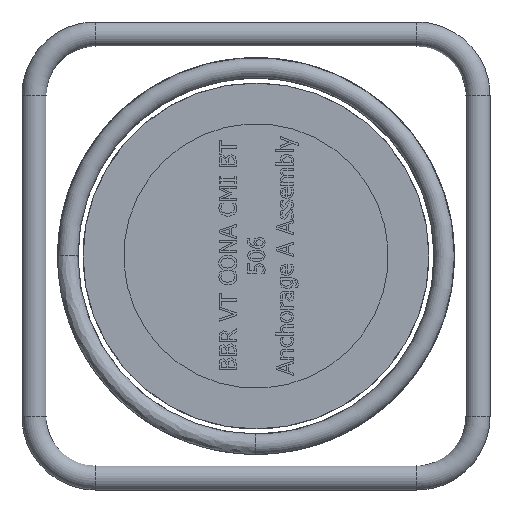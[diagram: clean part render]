
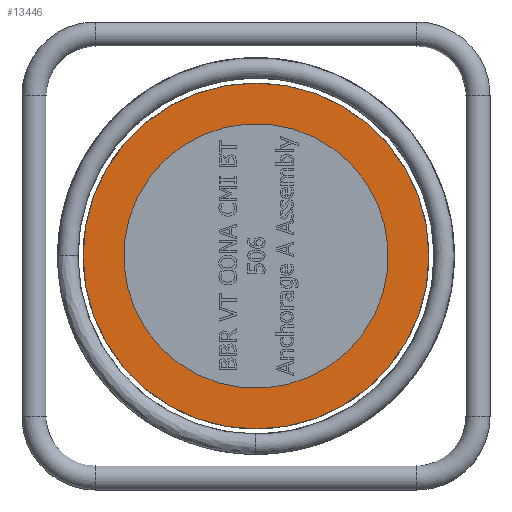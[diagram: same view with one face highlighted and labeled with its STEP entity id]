
A CAD part, left-side view. The second image highlights one B-rep face of the part: STEP entity #13446.
In plain terms, the highlighted planar face has unit normal (-1, 0, 0).
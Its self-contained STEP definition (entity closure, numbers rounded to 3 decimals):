
#3365=PLANE('',#13945);
#3503=FACE_BOUND('',#4992,.T.);
#4165=FACE_OUTER_BOUND('',#4991,.T.);
#4991=EDGE_LOOP('',(#11623));
#4992=EDGE_LOOP('',(#11624));
#5186=CIRCLE('',#13946,85.);
#5187=CIRCLE('',#13947,65.);
#6410=VERTEX_POINT('',#25458);
#6411=VERTEX_POINT('',#25460);
#8167=EDGE_CURVE('',#6410,#6410,#5186,.T.);
#8168=EDGE_CURVE('',#6411,#6411,#5187,.T.);
#11623=ORIENTED_EDGE('',*,*,#8167,.T.);
#11624=ORIENTED_EDGE('',*,*,#8168,.F.);
#13446=ADVANCED_FACE('',(#4165,#3503),#3365,.T.);
#13945=AXIS2_PLACEMENT_3D('',#25457,#15939,#15940);
#13946=AXIS2_PLACEMENT_3D('',#25459,#15941,#15942);
#13947=AXIS2_PLACEMENT_3D('',#25461,#15943,#15944);
#15939=DIRECTION('center_axis',(-1.,0.,0.));
#15940=DIRECTION('ref_axis',(0.,1.,0.));
#15941=DIRECTION('center_axis',(-1.,0.,0.));
#15942=DIRECTION('ref_axis',(0.,0.,
1.));
#15943=DIRECTION('center_axis',(-1.,0.,0.));
#15944=DIRECTION('ref_axis',(0.,0.998,-0.067));
#25457=CARTESIAN_POINT('Origin',(83.307,0.,
66.));
#25458=CARTESIAN_POINT('',(83.307,0.,85.));
#25459=CARTESIAN_POINT('Origin',(83.307,0.,
0.));
#25460=CARTESIAN_POINT('',(83.307,4.366,64.853));
#25461=CARTESIAN_POINT('Origin',(83.307,0.,
0.));
